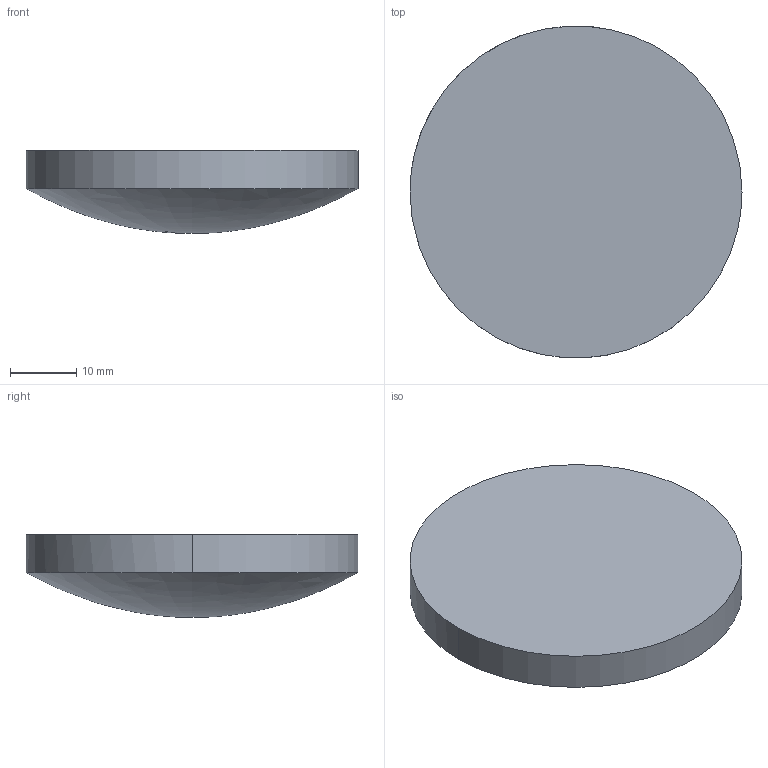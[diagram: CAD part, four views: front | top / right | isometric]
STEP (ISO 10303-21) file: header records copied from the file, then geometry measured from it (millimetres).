
FILE_DESCRIPTION ((), '1');
FILE_NAME ('J:\Applikationen\Optikdesign\StockOptics\Neuentwicklung StockOptics-Designs\AFL Aspheres\WebShop_Designfiles StockOptics\AFL50-100 (010707)\AFL50-100.STP', '2020-10-20T09:20:40', ('Unknown'), ('Unknown'), 'HarmonyWare STEP v2.0.6', 'HarmonyWare Translators', '');
FILE_SCHEMA (('CONFIG_CONTROL_DESIGN'));
Length unit declared in the file: millimetre
Products named in the file (1): NONE
Bounding box: 50 x 49.97 x 12.5 mm (x, y, z)
Volume: 17986.4 mm3; surface area: 4970 mm2
Topology: 1 solids, 1 shells, 4 faces, 9 edges, 6 vertices
Faces by surface type: cylinder 2, bspline 1, plane 1
Entity records: 335 total; most frequent: CARTESIAN_POINT 184, ORIENTED_EDGE 16, EDGE_CURVE 8, PERSON 8, ORGANIZATION 8, PERSON_AND_ORGANIZATION 8, VERTEX_POINT 6, DIRECTION 6
